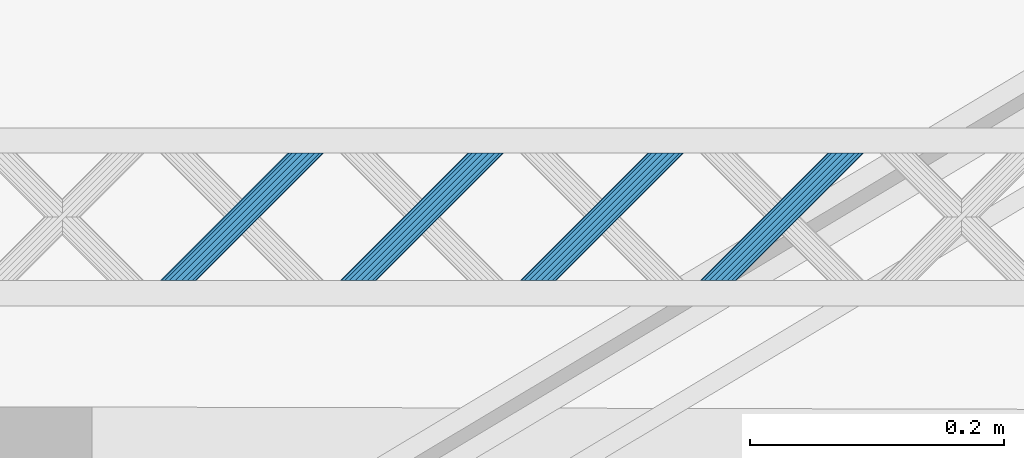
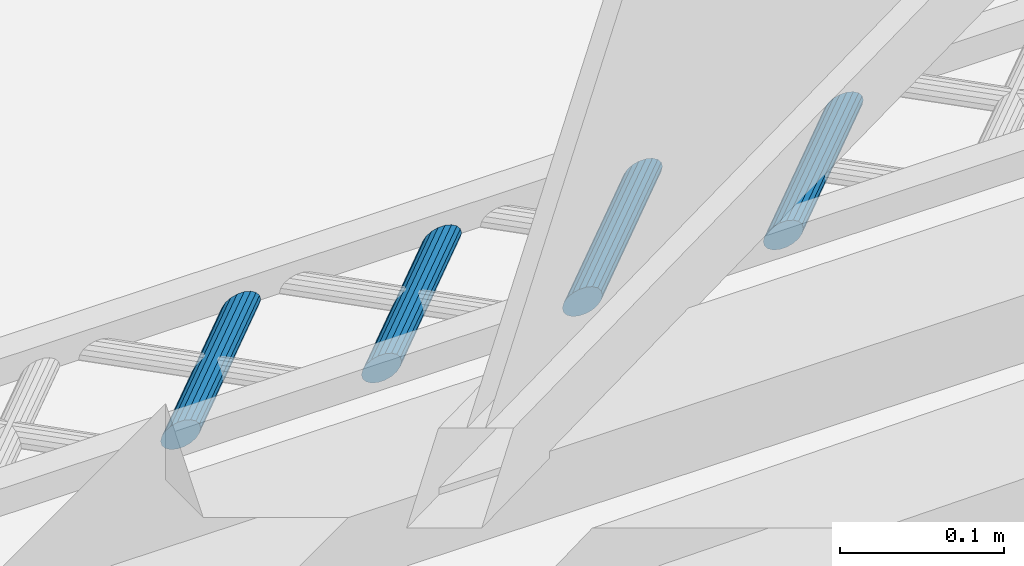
# One storey, part 62 of 133: 4 members, 1 element without a shape of its own.
"""IFC2X3 building model written with IfcOpenShell, lengths in centimetres."""

import ifcopenshell
import ifcopenshell.guid

model = None  # the IFC model being written
_history = None  # IfcOwnerHistory: only IFC2X3 demands one
_inside = {}  # id of a spatial element -> (the spatial element, [elements in it])
_under = {}  # id of a project, library or spatial element -> (it, [spatial elements below it])
_declared = {}  # id of a project -> (the project, [libraries it declares])
_typed = {}  # id of a type object -> (the type object, [elements of that type])
_made_of = {}  # id of a material, layer set ... -> (it, [elements and type objects made of it])


def new_model(schema):
    """Start an empty IFC model of exactly this schema.

    Asked for "IFC4X3", IfcOpenShell would pick the latest addendum, in which some entities
    have other attributes; the version numbers below select the first issue.
    IFC2X3 requires an IfcOwnerHistory on every rooted entity: one is made here for all.
    """
    global model, _history
    if schema == "IFC4X3":
        model = ifcopenshell.file(schema_version=(4, 3, 0, 0))
    else:
        model = ifcopenshell.file(schema=schema)
    _inside.clear()
    _under.clear()
    _declared.clear()
    _typed.clear()
    _made_of.clear()
    _history = None
    if model.schema == "IFC2X3":
        org = make("IfcOrganization", Name="unknown")
        user = make(
            "IfcPersonAndOrganization",
            ThePerson=make("IfcPerson", FamilyName="unknown"),
            TheOrganization=org,
        )
        app = make(
            "IfcApplication",
            ApplicationDeveloper=org,
            Version="unknown",
            ApplicationFullName="unknown",
            ApplicationIdentifier="unknown",
        )
        _history = make(
            "IfcOwnerHistory",
            OwningUser=user,
            OwningApplication=app,
            ChangeAction="ADDED",
            CreationDate=0,
        )
    return model


def make(cls, **values):
    """One entity of the class cls with the attributes given. An attribute that is None is left unset."""
    return model.create_entity(
        cls, **{name: value for name, value in values.items() if value is not None}
    )


def entity(cls, *values):
    """Any entity or typed value of the class cls, its attributes in the order of the schema. None: left unset."""
    e = model.create_entity(cls)
    for i, value in enumerate(values):
        if value is not None:
            e[i] = value
    return e


def rooted(cls, **values):
    """An entity with a GlobalId (a new one), such as an element, a storey or a relation."""
    return make(cls, GlobalId=ifcopenshell.guid.new(), OwnerHistory=_history, **values)


def si_unit(unit_type, name, prefix=None):
    """IfcSIUnit, for example si_unit("LENGTHUNIT", "METRE", prefix="MILLI")."""
    return make("IfcSIUnit", UnitType=unit_type, Prefix=prefix, Name=name)


def converted_unit(unit_type, name, factor, base, dimensions=None, offset=None):
    """IfcConversionBasedUnit, such as the inch: factor (a typed value) times the base unit."""
    return make(
        "IfcConversionBasedUnit"
        if offset is None
        else "IfcConversionBasedUnitWithOffset",
        ConversionOffset=offset,
        Dimensions=None
        if dimensions is None
        else entity("IfcDimensionalExponents", *dimensions),
        UnitType=unit_type,
        Name=name,
        ConversionFactor=make(
            "IfcMeasureWithUnit", ValueComponent=factor, UnitComponent=base
        ),
    )


def assignment(units):
    """IfcUnitAssignment: the units of a project."""
    return None if units is None else make("IfcUnitAssignment", Units=units)


def point(xyz):
    """IfcCartesianPoint."""
    return None if xyz is None else make("IfcCartesianPoint", Coordinates=xyz)


def direction(xyz):
    """IfcDirection."""
    return None if xyz is None else make("IfcDirection", DirectionRatios=xyz)


def frame(location, z_axis=None, x_axis=None):
    """IfcAxis2Placement3D, a coordinate frame: its origin and axes. An axis left out is left unset."""
    return make(
        "IfcAxis2Placement3D",
        Location=point(location),
        Axis=direction(z_axis),
        RefDirection=direction(x_axis),
    )


def origin():
    """The frame at (0, 0, 0) with its axes left unset."""
    return frame((0.0, 0.0, 0.0))


def origin_with_axes():
    """The frame at (0, 0, 0) with the z axis (0, 0, 1) and the x axis (1, 0, 0) written out."""
    return frame((0.0, 0.0, 0.0), z_axis=(0.0, 0.0, 1.0), x_axis=(1.0, 0.0, 0.0))


def place(relative_to, where):
    """IfcLocalPlacement: puts the frame where relative to a parent placement (None: the world)."""
    return make(
        "IfcLocalPlacement", PlacementRelTo=relative_to, RelativePlacement=where
    )


def context(
    kind, dimensions, precision=None, world=None, true_north=None, identifier=None
):
    """IfcGeometricRepresentationContext, for example the 3D "Model" context."""
    return make(
        "IfcGeometricRepresentationContext",
        ContextIdentifier=identifier,
        ContextType=kind,
        CoordinateSpaceDimension=dimensions,
        Precision=precision,
        WorldCoordinateSystem=world,
        TrueNorth=true_north,
    )


def subcontext(parent, identifier, kind, view, scale=None):
    """IfcGeometricRepresentationSubContext, for example "Body" below "Model"."""
    return make(
        "IfcGeometricRepresentationSubContext",
        ContextIdentifier=identifier,
        ContextType=kind,
        ParentContext=parent,
        TargetScale=scale,
        TargetView=view,
    )


def project(units=None, contexts=None):
    """IfcProject with its units and contexts."""
    return rooted(
        "IfcProject",
        Name="project",
        RepresentationContexts=contexts,
        UnitsInContext=assignment(units),
    )


def spatial(cls, under=None, at=None, **own):
    """A site, building, storey or space (cls), placed at a placement, below another one or the project."""
    s = rooted(cls, ObjectPlacement=at, **own)
    if under is not None:
        _under.setdefault(under.id(), (under, []))[1].append(s)
    return s


def faces_of(points, faces, orient=None, outer=None):
    """IfcFace entities. A face is a list of loops; a loop is a list of indices into points, from 0.

    orient and outer hold one flag for each loop. By default every Orientation is true, the
    first loop of a face is its IfcFaceOuterBound and the others are IfcFaceBound.
    """
    made = []
    for i, loops in enumerate(faces):
        bounds = []
        for j, loop in enumerate(loops):
            is_outer = j == 0 if outer is None else outer[i][j]
            bounds.append(
                make(
                    "IfcFaceOuterBound" if is_outer else "IfcFaceBound",
                    Bound=make("IfcPolyLoop", Polygon=[points[k] for k in loop]),
                    Orientation=True if orient is None else orient[i][j],
                )
            )
        made.append(make("IfcFace", Bounds=bounds))
    return made


def faceted_brep(points, faces, orient=None, outer=None, voids=None):
    """IfcFacetedBrep: a solid bounded by flat faces; with voids (closed shells), ...WithVoids."""
    shared = [point(p) for p in points]
    hull = make("IfcClosedShell", CfsFaces=faces_of(shared, faces, orient, outer))
    if voids is None:
        return make("IfcFacetedBrep", Outer=hull)
    return make(
        "IfcFacetedBrepWithVoids",
        Outer=hull,
        Voids=[
            make(cls, CfsFaces=faces_of(shared, fs, o, b)) for cls, fs, o, b in voids
        ],
    )


def shape(context_of_items, identifier, shape_type, items):
    """IfcShapeRepresentation: the items that make up one representation, for example the "Body"."""
    return make(
        "IfcShapeRepresentation",
        ContextOfItems=context_of_items,
        RepresentationIdentifier=identifier,
        RepresentationType=shape_type,
        Items=items,
    )


def material(Name=None, Category=None):
    """IfcMaterial."""
    return make("IfcMaterial", Name=Name, Category=Category)


def made_of(thing, what):
    """Note that an element or type object is made of a material, layer set ...; save() writes the relation."""
    if what is not None:
        _made_of.setdefault(what.id(), (what, []))[1].append(thing)
    return thing


def type_object(cls, material=None, **own):
    """A type object (cls), such as IfcWallType, which elements share."""
    return made_of(rooted(cls, **own), material)


def element(
    cls,
    number,
    at=None,
    inside=None,
    cuts=None,
    type_object=None,
    material=None,
    context=None,
    identifier="Body",
    shape_type=None,
    held_by="IfcProductDefinitionShape",
    body=None,
    shapes=None,
    **own,
):
    """One element of the class cls, such as IfcWall. Its Tag is "e" and its number.

    at: its placement. inside: the storey or other place that contains it. cuts: it is an
    opening in that element (IfcRelVoidsElement). A single representation is given by context,
    identifier, shape_type and body (its items); several are given by shapes. held_by: the class
    of the entity that holds the representations. save() writes the other relations.
    """
    e = rooted(cls, Tag="e%d" % number, ObjectPlacement=at, **own)
    if body is not None:
        shapes = [shape(context, identifier, shape_type, body)]
    if shapes is not None:
        e.Representation = make(held_by, Representations=shapes)
    if inside is not None:
        _inside.setdefault(inside.id(), (inside, []))[1].append(e)
    if cuts is not None:
        rooted(
            "IfcRelVoidsElement", RelatingBuildingElement=cuts, RelatedOpeningElement=e
        )
    if type_object is not None:
        _typed.setdefault(type_object.id(), (type_object, []))[1].append(e)
    return made_of(e, material)


def aggregate(whole, parts):
    """IfcRelAggregates: a whole, such as a stair, and the parts it consists of."""
    return rooted("IfcRelAggregates", RelatingObject=whole, RelatedObjects=parts)


def save(model, path):
    """Write the relations noted so far, then the file.

    IfcRelAggregates (storeys below a building ...), IfcRelContainedInSpatialStructure (elements
    in a storey), IfcRelDefinesByType, IfcRelAssociatesMaterial and IfcRelDeclares: one each for
    every whole, place, type object, material and project.
    """
    for whole, parts in _under.values():
        aggregate(whole, parts)
    for where, things in _inside.values():
        rooted(
            "IfcRelContainedInSpatialStructure",
            RelatedElements=things,
            RelatingStructure=where,
        )
    for kind, things in _typed.values():
        rooted("IfcRelDefinesByType", RelatedObjects=things, RelatingType=kind)
    for what, things in _made_of.values():
        rooted("IfcRelAssociatesMaterial", RelatedObjects=things, RelatingMaterial=what)
    for by, libraries in _declared.values():
        rooted("IfcRelDeclares", RelatingContext=by, RelatedDefinitions=libraries)
    model.write(path)


model = new_model("IFC2X3")

# Units and contexts
model_context = context("Model", 3, precision=0.0001, world=origin(), true_north=direction((0.225632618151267, 0.974212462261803, 0.0)))
body_context = subcontext(model_context, "Body", "Model", "MODEL_VIEW")
ifc_project = project(units=[si_unit("LENGTHUNIT", "METRE", prefix="CENTI"), si_unit("AREAUNIT", "SQUARE_METRE", prefix="CENTI"), si_unit("VOLUMEUNIT", "CUBIC_METRE", prefix="CENTI"), converted_unit("PLANEANGLEUNIT", "DEGREE", entity("IfcRatioMeasure", 0.0174532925), si_unit("PLANEANGLEUNIT", "RADIAN"), dimensions=[0, 0, 0, 0, 0, 0, 0])], contexts=[model_context])

# Site, building, storey
site_placement = place(None, origin_with_axes())
site = spatial("IfcSite", under=ifc_project, at=site_placement, Name="Default Site", CompositionType="ELEMENT")
building_placement = place(site_placement, origin_with_axes())
building = spatial("IfcBuilding", under=site, at=building_placement, Name="Default Building", CompositionType="ELEMENT")
storey_placement = place(building_placement, frame((0.0, 0.0, -291.400371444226), z_axis=(0.0, 0.0, 1.0), x_axis=(1.0, 0.0, 0.0)))
storey = spatial("IfcBuildingStorey", under=building, at=storey_placement, Name="Rez-de-Jardin", CompositionType="ELEMENT", Elevation=-291.400371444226)

# Assembly, members
building_element_proxy_type = type_object("IfcBuildingElementProxyType", Name="Type Object", PredefinedType="NOTDEFINED")
assembly_placement = place(storey_placement, frame((-322.682568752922, 627.125798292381, 0.0), z_axis=(0.0, 1.0, -2.38697950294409e-15), x_axis=(1.0, 0.0, 0.0)))
assembly = element("IfcElementAssembly", 1, at=assembly_placement, inside=storey, type_object=building_element_proxy_type, Name="Panneau 92029", ObjectType="Precast panel", PredefinedType="USERDEFINED")
ifc_material = material(Name="Aluminium satiné")
member_1_placement = place(assembly_placement, frame((80.8314502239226, 0.342020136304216, 11.9999997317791), z_axis=(1.16937776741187e-15, -1.43218081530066e-15, 1.0), x_axis=(0.632457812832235, -0.774594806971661, -1.84894192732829e-15)))
member_1 = element("IfcMember", 2, at=member_1_placement, material=ifc_material, Name="4294966826", context=body_context, shape_type="Brep", body=[
    faceted_brep([(7.7715611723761e-14, -5.55111512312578e-14, 1.11022302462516e-14), (-0.388290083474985, -4.44089209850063e-14, 1.03843044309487e-14), (-0.799166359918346, -0.150246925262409, 9.62461805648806e-15), (-1.18307325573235, -0.43262135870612, 8.91479650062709e-15), (-1.49370379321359, -0.813062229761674, 8.34045867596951e-15), (-1.69359427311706, -1.24568634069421, 7.97087278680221e-15), (-1.75863665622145, -1.67831484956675, 7.85061319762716e-15), (-1.68097711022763, -2.05875572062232, 7.99420118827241e-15), (-1.46999133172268, -2.34113289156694, 8.38430164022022e-15), (-1.15112306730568, -2.49138233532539, 8.97387054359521e-15), (-0.762836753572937, -2.49138695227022, 9.69178938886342e-15), (-0.351956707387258, -2.34113541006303, 1.04514827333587e-14), (0.0319501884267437, -2.05876097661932, 1.11613042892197e-14), (0.342580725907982, -1.67832010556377, 1.17356421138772e-14), (0.542471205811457, -1.24569599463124, 1.21052280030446e-14), (0.607509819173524, -0.813072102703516, 1.2225480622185e-14), (0.529854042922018, -0.432626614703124, 1.20818996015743e-14), (0.318868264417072, -0.150249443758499, 1.16917991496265e-14), (-6.0057113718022, -7.89619936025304, -9.99999977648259), (-5.79472182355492, -8.17857191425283, -9.99999977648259), (-5.71706604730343, -8.55901740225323, -9.99999977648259), (-5.78210466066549, -8.99164129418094, -9.99999977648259), (-5.98199514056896, -9.42426540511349, -9.99999977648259), (-6.29262944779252, -9.80471089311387, -9.99999977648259), (-6.67653634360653, -10.0870853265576, -9.99999977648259), (-7.08741262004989, -10.2373322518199, -9.99999977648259), (-7.47570270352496, -10.2373322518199, -9.99999977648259), (-7.79457096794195, -10.0870828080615, -9.99999977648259), (-8.00555674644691, -9.80470563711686, -9.99999977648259), (-8.0832125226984, -9.42426014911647, -9.99999977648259), (-8.01817390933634, -8.99163625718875, -9.99999977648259), (-7.81828342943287, -8.55901214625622, -9.99999977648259), (-7.5076491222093, -8.17856665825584, -9.99999977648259), (-7.1237422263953, -7.89619222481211, -9.99999977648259), (-6.71286594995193, -7.74594529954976, -9.99999977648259), (-6.32457586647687, -7.74594529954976, -9.99999977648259), (0.318868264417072, -0.150249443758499, 1.11022302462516e-14), (0.529854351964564, -0.432626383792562, -3.74318484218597e-07), (-5.79472285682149, -8.17857268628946, -9.9999985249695), (-6.005710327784, -7.89619858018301, -10.0000010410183), (0.529854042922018, -0.432626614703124, 1.11022302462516e-14), (0.60751052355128, -0.813071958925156, -5.56859173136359e-07), (-5.71706693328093, -8.55901758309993, -9.99999907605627), (-5.79472341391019, -8.17857223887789, -9.99999851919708), (0.607509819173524, -0.813072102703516, 1.2490009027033e-14), (0.542470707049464, -1.24569591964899, 2.57365076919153e-07), (-5.78210650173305, -8.99164101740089, -9.99999882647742), (-5.71706738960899, -8.55901720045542, -9.99999908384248), (0.542471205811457, -1.24569599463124, 1.2490009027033e-14), (0.342580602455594, -1.67832004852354, 3.38953760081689e-08), (-5.98199597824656, -9.424265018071, -9.99999954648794), (-5.78210537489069, -8.99164096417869, -9.99999958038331), (0.342580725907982, -1.67832010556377, 1.11022302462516e-14), (0.0319501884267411, -2.05876097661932, 1.11022302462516e-14), (-6.29262944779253, -9.80471089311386, -9.99999977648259), (-5.98199514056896, -9.42426540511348, -9.99999977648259), (0.0319501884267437, -2.05876097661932, 1.11022302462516e-14), (-0.35195662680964, -2.34113551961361, 3.38953773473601e-08), (-6.67653662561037, -10.0870849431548, -9.99999989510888), (-6.29262981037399, -9.80471040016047, -9.99999992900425), (-0.351956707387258, -2.34113541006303, 9.71445146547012e-15), (-0.76283740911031, -2.49138515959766, -9.73995118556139e-07), (-7.08741280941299, -10.2373317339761, -10.0000000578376), (-6.67653670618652, -10.0870843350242, -10.0000003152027), (-0.762836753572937, -2.49138695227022, 9.71445146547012e-15), (-1.1511230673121, -2.49138450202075, 1.67831504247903e-06), (-7.47570270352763, -10.2373331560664, -9.99999907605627), (-7.0874126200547, -10.2373338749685, -9.99999851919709), (-1.15112306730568, -2.49138233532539, 8.32667268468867e-15), (-1.46999116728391, -2.34113254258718, -3.74318488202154e-07), (-7.79457024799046, -10.0870812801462, -10.0000014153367), (-7.47570214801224, -10.2373310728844, -10.0000010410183), (-1.46999133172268, -2.34113289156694, 8.32667268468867e-15), (-1.68097741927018, -2.05875595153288, 3.74318499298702e-07), (-8.00555601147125, -9.80470508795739, -10.0000006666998), (-7.79456992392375, -10.0870820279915, -10.0000010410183), (-1.68097711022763, -2.05875572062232, 8.32667268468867e-15), (-1.75863453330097, -1.6783144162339, -1.67831501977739e-06), (-8.08321199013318, -9.42426004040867, -10.0000001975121), (-8.00555550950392, -9.8047053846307, -10.0000007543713), (-1.75863665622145, -1.67831484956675, 6.93889390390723e-15), (-1.69359616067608, -1.24568605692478, 9.73995131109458e-07), (-8.01817475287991, -8.99163613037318, -9.99999934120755), (-8.08321386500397, -9.42425994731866, -9.99999908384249), (-1.69359427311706, -1.24568634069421, 6.93889390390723e-15), (-1.4937036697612, -0.813062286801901, -3.38953577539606e-08), (-7.81828275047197, -8.55901245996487, -9.99999996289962), (-8.01817335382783, -8.99163651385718, -9.99999992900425), (-1.49370379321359, -0.813062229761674, 8.32667268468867e-15), (-1.18307325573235, -0.432621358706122, 8.32667268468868e-15), (-7.50764912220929, -8.17856665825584, -9.99999977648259), (-7.81828342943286, -8.55901214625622, -9.99999977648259), (-1.18307325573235, -0.43262135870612, 8.32667268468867e-15), (-0.799166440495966, -0.150246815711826, -3.38953587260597e-08), (-7.12374184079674, -7.89619274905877, -9.99999961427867), (-7.50764865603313, -8.17856729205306, -9.99999958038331), (-0.799166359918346, -0.150246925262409, 9.71445146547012e-15), (-0.388290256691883, 4.73689474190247e-07, -2.57365050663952e-07), (-6.71286565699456, -7.74594610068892, -9.99999934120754), (-7.12374176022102, -7.8961934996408, -9.99999908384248), (-0.388290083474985, -4.44089209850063e-14, 9.71445146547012e-15), (-2.05190970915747e-12, -7.18902159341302e-07, 5.56859194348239e-07), (-6.3245758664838, -7.74594764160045, -9.9999979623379), (-6.71286594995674, -7.74594692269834, -9.99999851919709), (0.318868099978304, -0.150249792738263, 3.74318507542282e-07), (-6.00571098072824, -7.89619853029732, -10.0000006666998), (-6.32457658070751, -7.74594681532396, -9.99999815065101)], [[[0, 1, 2, 3, 4, 5, 6, 7, 8, 9, 10, 11, 12, 13, 14, 15, 16, 17]], [[18, 19, 20, 21, 22, 23, 24, 25, 26, 27, 28, 29, 30, 31, 32, 33, 34, 35]], [[36, 37, 38, 39]], [[40, 41, 42, 43]], [[44, 45, 46, 47]], [[48, 49, 50, 51]], [[52, 53, 54, 55]], [[56, 57, 58, 59]], [[60, 61, 62, 63]], [[64, 65, 66, 67]], [[68, 69, 70, 71]], [[72, 73, 74, 75]], [[76, 77, 78, 79]], [[80, 81, 82, 83]], [[84, 85, 86, 87]], [[88, 89, 90, 91]], [[92, 93, 94, 95]], [[96, 97, 98, 99]], [[100, 101, 102, 103]], [[0, 104, 105, 106]]]),
])
member_2_placement = place(assembly_placement, frame((94.973587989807, 0.342020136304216, 11.9999997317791), z_axis=(1.16937776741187e-15, -1.43218081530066e-15, 1.0), x_axis=(0.632457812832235, -0.774594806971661, -1.84894192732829e-15)))
member_2 = element("IfcMember", 3, at=member_2_placement, material=ifc_material, Name="4294966825", context=body_context, shape_type="Brep", body=[
    faceted_brep([(5.55111512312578e-14, -4.44089209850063e-14, 2.77555756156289e-14), (-0.388290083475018, -3.33066907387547e-14, 2.7037649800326e-14), (-0.79916635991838, -0.150246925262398, 2.62779634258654e-14), (-1.18307325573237, -0.432621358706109, 2.55681418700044e-14), (-1.49370756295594, -0.813066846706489, 2.49937970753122e-14), (-1.69359804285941, -1.24569095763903, 2.46242111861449e-14), (-1.75863665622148, -1.67831484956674, 2.45039585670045e-14), (-1.68098087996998, -2.05876033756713, 2.46475395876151e-14), (-1.46999510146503, -2.34113750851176, 2.50376400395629e-14), (-1.15112683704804, -2.4913869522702, 2.56272089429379e-14), (-0.762836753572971, -2.49138695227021, 2.63451347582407e-14), (-0.351960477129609, -2.34114002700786, 2.71048211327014e-14), (0.0319464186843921, -2.05876559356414, 2.78146426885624e-14), (0.342580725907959, -1.67832010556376, 2.83889874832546e-14), (0.542471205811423, -1.24569599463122, 2.87585733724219e-14), (0.607509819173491, -0.813072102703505, 2.88788259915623e-14), (0.529854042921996, -0.432626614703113, 2.87352449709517e-14), (0.318868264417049, -0.150249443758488, 2.83451445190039e-14), (-6.00571137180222, -7.89619936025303, -9.99999977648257), (-5.79472559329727, -8.17857653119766, -9.99999977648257), (-5.71706981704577, -8.55902201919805, -9.99999977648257), (-5.78210843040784, -8.99164591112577, -9.99999977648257), (-5.98199891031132, -9.4242700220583, -9.99999977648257), (-6.29262944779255, -9.80471089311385, -9.99999977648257), (-6.67653634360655, -10.0870853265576, -9.99999977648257), (-7.08741638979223, -10.2373368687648, -9.99999977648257), (-7.47570270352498, -10.2373322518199, -9.99999977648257), (-7.79457096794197, -10.0870828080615, -9.99999977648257), (-8.00555674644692, -9.80470563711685, -9.99999977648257), (-8.08321629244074, -9.42426476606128, -9.99999977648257), (-8.01817390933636, -8.99163625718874, -9.99999977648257), (-7.81828342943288, -8.55901214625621, -9.99999977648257), (-7.50765289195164, -8.17857127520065, -9.99999977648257), (-7.12374599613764, -7.89619684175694, -9.99999977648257), (-6.71286971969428, -7.74594991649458, -9.99999977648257), (-6.32457963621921, -7.74594991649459, -9.99999977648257), (0.318868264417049, -0.150249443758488, 2.77555756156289e-14), (0.529854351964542, -0.432626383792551, -3.74318467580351e-07), (-5.79472424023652, -8.17857552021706, -10.0000014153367), (-6.00571032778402, -7.896198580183, -10.0000010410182), (0.529854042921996, -0.432626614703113, 2.77555756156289e-14), (0.607510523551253, -0.813071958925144, -5.56859161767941e-07), (-5.71706787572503, -8.55902162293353, -10.0000013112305), (-5.79472435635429, -8.1785762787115, -10.0000007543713), (0.607509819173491, -0.813072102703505, 2.91433543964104e-14), (0.542470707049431, -1.24569591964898, 2.57365093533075e-07), (-5.78210788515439, -8.99164599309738, -10.0000000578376), (-5.71706877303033, -8.5590221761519, -10.0000003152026), (0.542471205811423, -1.24569599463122, 2.91433543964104e-14), (0.342580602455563, -1.67832004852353, 3.38953950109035e-08), (-5.98199847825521, -9.4242702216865, -9.99999989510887), (-5.78210787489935, -8.99164616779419, -9.99999992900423), (0.342580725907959, -1.67832010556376, 2.77555756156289e-14), (0.0319464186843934, -2.05876559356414, 2.77555756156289e-14), (-6.29262944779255, -9.80471089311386, -9.99999977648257), (-5.98199891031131, -9.42427002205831, -9.99999977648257), (0.0319464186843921, -2.05876559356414, 2.77555756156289e-14), (-0.351960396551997, -2.34114013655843, 3.38953919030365e-08), (-6.67653579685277, -10.0870860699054, -9.99999954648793), (-6.29262898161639, -9.80471152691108, -9.99999958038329), (-0.351960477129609, -2.34114002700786, 2.63677968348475e-14), (-0.762836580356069, -2.49138742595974, 2.57365090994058e-07), (-7.08741657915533, -10.2373363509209, -10.0000000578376), (-6.67653587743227, -10.0870866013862, -9.99999908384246), (-0.762836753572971, -2.49138695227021, 2.63677968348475e-14), (-1.15112683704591, -2.4913862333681, -5.5685915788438e-07), (-7.47570270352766, -10.2373331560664, -9.99999907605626), (-7.08741638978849, -10.2373356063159, -10.0000007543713), (-1.15112683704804, -2.4913869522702, 2.4980018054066e-14), (-1.46999493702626, -2.341137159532, -3.7431846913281e-07), (-7.79457151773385, -10.0870839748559, -9.9999985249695), (-7.47570341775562, -10.2373337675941, -9.999998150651), (-1.46999510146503, -2.34113750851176, 2.4980018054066e-14), (-1.68098118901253, -2.05876056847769, 3.74318515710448e-07), (-8.00555839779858, -9.8047068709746, -9.99999777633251), (-7.79457231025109, -10.0870838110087, -9.999998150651), (-1.68098087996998, -2.05876033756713, 2.4980018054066e-14), (-1.75863736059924, -1.6783149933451, 5.56859214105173e-07), (-8.08321575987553, -9.42426465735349, -10.0000001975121), (-8.00555833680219, -9.80470596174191, -9.99999851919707), (-1.75863665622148, -1.67831484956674, 2.35922392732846e-14), (-1.69359754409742, -1.24569103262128, -2.57365040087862e-07), (-8.01817475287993, -8.99163613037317, -9.99999934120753), (-8.0832152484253, -9.42426492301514, -10.0000003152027), (-1.69359804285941, -1.24569095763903, 2.35922392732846e-14), (-1.49370743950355, -0.813066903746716, -3.38953409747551e-08), (-7.8182840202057, -8.55901187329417, -9.99999961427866), (-8.01817462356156, -8.99163592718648, -9.9999995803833), (-1.49370756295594, -0.813066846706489, 2.4980018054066e-14), (-1.18307325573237, -0.432621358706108, 2.4980018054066e-14), (-7.50765289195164, -8.17857127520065, -9.99999977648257), (-1.18307325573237, -0.432621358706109, 2.4980018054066e-14), (-0.799166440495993, -0.150246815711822, -3.38953397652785e-08), (-7.12374643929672, -7.89619623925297, -9.9999999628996), (-7.5076532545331, -8.17857078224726, -9.99999992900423), (-0.79916635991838, -0.150246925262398, 2.63677968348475e-14), (-0.388290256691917, 4.73689485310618e-07, -2.57365034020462e-07), (-6.71287025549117, -7.74594845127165, -10.0000005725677), (-7.12374635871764, -7.89619585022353, -10.0000003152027), (-0.388290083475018, -3.33066907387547e-14, 2.63677968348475e-14), (-2.07411416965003e-12, -7.18902148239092e-07, 5.568592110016e-07), (-6.3245796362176, -7.7459493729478, -10.0000001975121), (-6.71286971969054, -7.74594865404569, -10.0000007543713), (0.318868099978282, -0.150249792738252, 3.74318524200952e-07), (-6.00571098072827, -7.89619853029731, -10.0000006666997), (-6.32457908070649, -7.74594873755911, -10.0000010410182)], [[[0, 1, 2, 3, 4, 5, 6, 7, 8, 9, 10, 11, 12, 13, 14, 15, 16, 17]], [[18, 19, 20, 21, 22, 23, 24, 25, 26, 27, 28, 29, 30, 31, 32, 33, 34, 35]], [[36, 37, 38, 39]], [[40, 41, 42, 43]], [[44, 45, 46, 47]], [[48, 49, 50, 51]], [[52, 53, 54, 55]], [[56, 57, 58, 59]], [[60, 61, 62, 63]], [[64, 65, 66, 67]], [[68, 69, 70, 71]], [[72, 73, 74, 75]], [[76, 77, 78, 79]], [[80, 81, 82, 83]], [[84, 85, 86, 87]], [[88, 89, 90, 31]], [[91, 92, 93, 94]], [[95, 96, 97, 98]], [[99, 100, 101, 102]], [[0, 103, 104, 105]]]),
])
member_3_placement = place(assembly_placement, frame((109.115719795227, 0.342020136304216, 11.9999997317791), z_axis=(1.16937209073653e-15, -1.43220862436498e-15, 1.0), x_axis=(0.632448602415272, -0.774602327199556, -1.84895987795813e-15)))
member_3 = element("IfcMember", 4, at=member_3_placement, material=ifc_material, Name="4294966824", context=body_context, shape_type="Brep", body=[
    faceted_brep([(3.33066907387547e-14, 2.22044604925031e-14, -1.33226762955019e-13), (-0.388286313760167, 2.22044604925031e-14, -1.33944688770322e-13), (-0.799164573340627, -0.150256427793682, -1.34704386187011e-13), (-1.18306811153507, -0.432635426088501, -1.35414208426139e-13), (-1.49369789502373, -0.813084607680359, -1.35988550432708e-13), (-1.69358323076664, -1.24571109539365, -1.36358130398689e-13), (-1.75861293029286, -1.6783311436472, -1.36478367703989e-13), (-1.68095640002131, -2.05878032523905, -1.36334783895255e-13), (-1.46996349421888, -2.34115037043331, -1.35944666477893e-13), (-1.15109721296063, -2.49140063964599, -1.35355095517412e-13), (-0.762803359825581, -2.49139140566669, -1.34637155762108e-13), (-0.351932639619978, -2.34114421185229, -1.3387747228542e-13), (0.0319708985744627, -2.05876521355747, -1.33167650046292e-13), (0.342600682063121, -1.67831603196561, -1.32593308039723e-13), (0.542486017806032, -1.24568954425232, -1.32223728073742e-13), (0.60752325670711, -0.81306026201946, -1.32103476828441e-13), (0.529859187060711, -0.432620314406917, -1.32247074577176e-13), (0.318873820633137, -0.150241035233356, -1.32637178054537e-13), (-6.00561371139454, -7.89626615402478, -9.99999977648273), (-5.79462457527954, -8.17864081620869, -9.99999977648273), (-5.71696427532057, -8.55908538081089, -9.99999977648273), (-5.78199774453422, -8.99171004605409, -9.99999977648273), (-5.98188308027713, -9.42433653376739, -9.99999977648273), (-6.29251286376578, -9.80478571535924, -9.99999977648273), (-6.67641640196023, -10.0871647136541, -9.99999977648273), (-7.08729089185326, -10.2374165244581, -9.99999977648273), (-7.47558097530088, -10.2374211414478, -9.99999977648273), (-7.79445102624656, -10.0871754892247, -9.99999977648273), (-8.00544016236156, -9.80480082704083, -9.99999977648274), (-8.08310046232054, -9.42435626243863, -9.99999977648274), (-8.01806699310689, -8.99173159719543, -9.99999977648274), (-7.81818165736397, -8.55910510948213, -9.99999977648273), (-7.50755187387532, -8.17865592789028, -9.99999977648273), (-7.12364833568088, -7.89627692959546, -9.99999977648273), (-6.71277384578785, -7.74602511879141, -9.99999977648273), (-6.32448376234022, -7.74602050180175, -9.99999977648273), (0.318873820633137, -0.150241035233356, -1.33226762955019e-13), (0.529861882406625, -0.432618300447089, -3.26468585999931e-06), (-5.79462322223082, -8.17863980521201, -10.0000014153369), (-6.00561266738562, -7.89626537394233, -10.0000010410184), (0.529859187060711, -0.432620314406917, -1.33226762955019e-13), (0.607521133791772, -0.813060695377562, 1.67831490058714e-06), (-5.71696516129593, -8.55908556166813, -9.99999907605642), (-5.79462616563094, -8.17864114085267, -9.99999851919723), (0.60752325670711, -0.81306026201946, -1.31838984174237e-13), (0.542487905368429, -1.2456898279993, -9.739952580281e-07), (-5.78199719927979, -8.99171012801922, -10.0000000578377), (-5.71696323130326, -8.55908553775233, -10.0000003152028), (0.542486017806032, -1.24568954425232, -1.33226762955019e-13), (0.342600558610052, -1.67831597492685, 3.38952326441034e-08), (-5.98188391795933, -9.42433614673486, -9.99999954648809), (-5.78199845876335, -8.99170971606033, -9.99999958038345), (0.342600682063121, -1.67831603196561, -1.33226762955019e-13), (0.0319708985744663, -2.05876521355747, -1.33226762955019e-13), (0.0319708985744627, -2.05876521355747, -1.33226762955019e-13), (-0.351932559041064, -2.3411443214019, 3.38952308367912e-08), (-6.67641585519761, -10.0871654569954, -9.99999954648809), (-6.29251239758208, -9.80478634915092, -9.99999958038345), (-0.351932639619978, -2.34114421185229, -1.346145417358e-13), (-0.762802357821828, -2.49139414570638, 1.48872511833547e-06), (-7.08729025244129, -10.2374182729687, -9.99999882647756), (-6.67641593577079, -10.0871659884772, -9.99999908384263), (-0.762803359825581, -2.49139140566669, -1.346145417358e-13), (-1.15109721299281, -2.49139703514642, -2.79203354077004e-06), (-7.47558097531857, -10.2374191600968, -10.0000013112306), (-7.08729089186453, -10.2374152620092, -10.0000007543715), (-1.15109721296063, -2.49140063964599, -1.36002320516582e-13), (-1.46996459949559, -2.34115271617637, 2.51604860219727e-06), (-7.79445157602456, -10.0871766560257, -9.99999852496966), (-7.4755816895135, -10.2374226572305, -9.99999815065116), (-1.46996349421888, -2.34115037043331, -1.36002320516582e-13), (-1.68095432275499, -2.05877877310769, -2.51604887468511e-06), (-8.00543942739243, -9.80480027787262, -10.0000006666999), (-7.79444998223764, -10.0871747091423, -10.0000010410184), (-1.68095640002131, -2.05878032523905, -1.36002320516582e-13), (-1.75861646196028, -1.67833186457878, 2.79203326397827e-06), (-8.08310275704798, -9.42435673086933, -9.99999796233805), (-8.00544175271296, -9.8048011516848, -9.99999851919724), (-1.75861293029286, -1.6783311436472, -1.37390099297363e-13), (-1.69358034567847, -1.24571152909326, -1.48872539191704e-06), (-8.01806545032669, -8.99173182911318, -10.0000005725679), (-8.08309941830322, -9.42435641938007, -10.0000003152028), (-1.69358323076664, -1.24571109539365, -1.37390099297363e-13), (-1.49369777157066, -0.813084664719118, -3.38955019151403e-08), (-7.81818224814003, -8.55910483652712, -9.99999961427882), (-8.01806770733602, -8.99173126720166, -9.99999958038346), (-1.49369789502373, -0.813084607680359, -1.36002320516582e-13), (-1.18306811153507, -0.432635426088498, -1.36002320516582e-13), (-7.50755187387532, -8.17865592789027, -9.99999977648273), (-1.18306811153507, -0.432635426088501, -1.36002320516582e-13), (-0.799164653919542, -0.150256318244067, -3.38955013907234e-08), (-7.12364795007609, -7.89627745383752, -9.99999961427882), (-7.50755140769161, -8.17865656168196, -9.99999958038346), (-0.799164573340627, -0.150256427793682, -1.36002320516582e-13), (-0.388285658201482, -1.79266474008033e-06, 9.7399498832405e-07), (-6.71277355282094, -7.74602591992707, -9.99999934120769), (-7.12364786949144, -7.89627820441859, -9.99999908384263), (-0.388286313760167, 2.22044604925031e-14, -1.346145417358e-13), (-1.93114650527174e-11, 2.16669537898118e-06, -1.67831516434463e-06), (-6.32448376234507, -7.74601995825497, -10.0000001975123), (-6.71277384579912, -7.74602385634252, -10.0000007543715), (0.318872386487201, -0.150244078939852, 3.26468559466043e-06), (-6.00561459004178, -7.89626801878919, -9.99999777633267), (-6.32448447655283, -7.74602201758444, -9.99999815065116)], [[[0, 1, 2, 3, 4, 5, 6, 7, 8, 9, 10, 11, 12, 13, 14, 15, 16, 17]], [[18, 19, 20, 21, 22, 23, 24, 25, 26, 27, 28, 29, 30, 31, 32, 33, 34, 35]], [[36, 37, 38, 39]], [[40, 41, 42, 43]], [[44, 45, 46, 47]], [[48, 49, 50, 51]], [[52, 53, 23, 22]], [[54, 55, 56, 57]], [[58, 59, 60, 61]], [[62, 63, 64, 65]], [[66, 67, 68, 69]], [[70, 71, 72, 73]], [[74, 75, 76, 77]], [[78, 79, 80, 81]], [[82, 83, 84, 85]], [[86, 87, 88, 31]], [[89, 90, 91, 92]], [[93, 94, 95, 96]], [[97, 98, 99, 100]], [[0, 101, 102, 103]]]),
])
member_4_placement = place(assembly_placement, frame((123.257863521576, 0.342020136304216, 11.9999997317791), z_axis=(1.16938344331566e-15, -1.43215300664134e-15, 1.0), x_axis=(0.632467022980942, -0.774587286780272, -1.84892397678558e-15)))
member_4 = element("IfcMember", 5, at=member_4_placement, material=ifc_material, Name="4294966823", context=body_context, shape_type="Brep", body=[
    faceted_brep([(8.88178419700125e-14, -1.11022302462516e-14, -1.2490009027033e-13), (-0.388293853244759, -1.11022302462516e-14, -1.25618016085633e-13), (-0.799168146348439, -0.150237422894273, -1.26377691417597e-13), (-1.18307839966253, -0.432607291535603, -1.27087512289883e-13), (-1.49371723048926, -0.813049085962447, -1.2766185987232e-13), (-1.69361285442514, -1.2456708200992, -1.28031451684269e-13), (-1.75866038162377, -1.67829855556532, -1.28151719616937e-13), (-1.68100535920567, -2.05874034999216, -1.28008141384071e-13), (-1.47002670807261, -2.34112464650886, -1.27618057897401e-13), (-1.15115646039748, -2.49137326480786, -1.27028491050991e-13), (-0.762870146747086, -2.49138249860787, -1.26310579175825e-13), (-0.351988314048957, -2.34113584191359, -1.25550889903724e-13), (0.0319219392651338, -2.05876597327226, -1.24841069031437e-13), (0.34256077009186, -1.67832417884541, -1.24266721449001e-13), (0.542456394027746, -1.24570244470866, -1.23897129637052e-13), (0.607496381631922, -0.81308394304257, -1.23776875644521e-13), (0.529848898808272, -0.432632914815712, -1.2392043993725e-13), (0.318862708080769, -0.150257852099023, -1.24310537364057e-13), (-6.00580902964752, -7.89613256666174, -9.99999977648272), (-5.79482283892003, -8.17850762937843, -9.99999977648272), (-5.71717535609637, -8.5589586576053, -9.99999977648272), (-5.78221534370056, -8.99157715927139, -9.99999977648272), (-5.98211096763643, -9.42419889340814, -9.99999977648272), (-6.29274979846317, -9.80464068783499, -9.99999977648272), (-6.67666005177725, -10.0870105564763, -9.99999977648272), (-7.08754188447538, -10.2372572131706, -9.99999977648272), (-7.47582819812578, -10.2372479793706, -9.99999977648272), (-7.79469090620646, -10.0869901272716, -9.99999977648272), (-8.00567709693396, -9.80461506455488, -9.99999977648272), (-8.08333211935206, -9.42417327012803, -9.99999977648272), (-8.01828459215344, -8.99154553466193, -9.99999977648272), (-7.81838896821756, -8.55892380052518, -9.99999977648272), (-7.50775013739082, -8.17848200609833, -9.99999977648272), (-7.12383988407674, -7.896112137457, -9.99999977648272), (-6.71296559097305, -7.74587471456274, -9.99999977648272), (-6.32467173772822, -7.74587471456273, -9.99999977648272), (0.318862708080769, -0.150257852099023, -1.2490009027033e-13), (0.529846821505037, -0.432634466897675, 2.5160486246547e-06), (-5.79482387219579, -8.17850840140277, -9.99999852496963), (-6.00580798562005, -7.89613178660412, -10.0000010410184), (0.529848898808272, -0.432632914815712, -1.2490009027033e-13), (0.607499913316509, -0.813083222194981, -2.79203353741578e-06), (-5.7171705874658, -8.55895768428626, -10.0000035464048), (-5.79482160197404, -8.17850737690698, -10.0000007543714), (0.607496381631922, -0.81308394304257, -1.23512311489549e-13), (0.542453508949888, -1.24570201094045, 1.48872513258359e-06), (-5.78221718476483, -8.99157688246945, -9.99999882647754), (-5.7171743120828, -8.55895881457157, -10.0000003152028), (0.542456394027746, -1.24570244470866, -1.2490009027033e-13), (0.342560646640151, -1.67832412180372, 3.38952400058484e-08), (-5.98211053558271, -9.42419909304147, -9.99999989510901), (-5.78221478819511, -8.99157741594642, -9.99999992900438), (0.34256077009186, -1.67832417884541, -1.2490009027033e-13), (0.0319219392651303, -2.05876597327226, -1.2490009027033e-13), (-6.29274979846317, -9.80464068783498, -9.99999977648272), (-5.98211096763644, -9.42419889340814, -9.99999977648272), (0.0319219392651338, -2.05876597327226, -1.2490009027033e-13), (-0.351988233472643, -2.34113595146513, 3.3895240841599e-08), (-6.67666033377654, -10.0870101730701, -9.99999989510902), (-6.29275016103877, -9.80464019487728, -9.99999992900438), (-0.351988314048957, -2.34113584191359, -1.26287869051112e-13), (-0.762870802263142, -2.49138070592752, -9.739952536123e-07), (-7.08754290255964, -10.2372544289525, -10.0000012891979), (-6.67666041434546, -10.0870095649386, -10.0000003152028), (-0.762870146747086, -2.49138249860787, -1.26287869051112e-13), (-1.15115646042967, -2.49137543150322, 1.67831490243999e-06), (-7.47582819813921, -10.237248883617, -9.99999907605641), (-7.08754188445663, -10.2372559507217, -10.0000007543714), (-1.15115646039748, -2.49137326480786, -1.27675647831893e-13), (-1.4700252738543, -2.34112160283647, -3.2646858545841e-06), (-7.79469145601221, -10.0869912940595, -9.99999852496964), (-7.47582764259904, -10.2372468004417, -10.0000010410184), (-1.47002670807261, -2.34112464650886, -1.27675647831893e-13), (-1.68100805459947, -2.05874236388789, 3.2646855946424e-06), (-8.00567874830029, -9.80461629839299, -9.99999777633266), (-7.79469463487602, -10.0869929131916, -9.99999526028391), (-1.68100535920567, -2.05874034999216, -1.27675647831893e-13), (-1.75865825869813, -1.6782981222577, -1.67831515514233e-06), (-8.08332875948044, -9.42417258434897, -10.0000024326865), (-8.00567585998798, -9.80461481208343, -10.0000007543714), (-1.75866038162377, -1.67829855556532, -1.29063426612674e-13), (-1.69361474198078, -1.24567053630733, 9.73994992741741e-07), (-8.01828543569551, -8.99154540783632, -9.99999934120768), (-8.08333107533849, -9.4241734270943, -10.0000003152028), (-1.69361285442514, -1.2456708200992, -1.29063426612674e-13), (-1.49371710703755, -0.81304914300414, -3.38954926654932e-08), (-7.8183882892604, -8.5589241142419, -9.99999996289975), (-8.018284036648, -8.99154579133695, -9.99999992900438), (-1.49371723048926, -0.813049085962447, -1.27675647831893e-13), (-1.18307839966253, -0.432607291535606, -1.27675647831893e-13), (-1.18307839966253, -0.432607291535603, -1.27675647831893e-13), (-0.799168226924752, -0.150237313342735, -3.38954947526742e-08), (-7.12384032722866, -7.89611153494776, -9.99999996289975), (-7.50775049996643, -8.17848151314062, -9.99999992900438), (-0.799168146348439, -0.150237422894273, -1.27675647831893e-13), (-0.388294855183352, 2.74006351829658e-06, -1.48872538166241e-06), (-6.71296695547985, -7.74587098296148, -10.0000018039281), (-7.12384024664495, -7.89611114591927, -10.0000003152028), (-0.388293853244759, -1.11022302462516e-14, -1.26287869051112e-13), (-5.34476149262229e-11, -3.60449958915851e-06, 2.79203328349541e-06), (-6.324671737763, -7.74587705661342, -9.99999796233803), (-6.7129655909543, -7.74587345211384, -10.0000007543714), (0.318863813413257, -0.150255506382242, -2.51604886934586e-06), (-6.0058073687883, -7.89612904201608, -10.0000035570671), (-6.32467118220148, -7.74587353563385, -10.0000010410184)], [[[0, 1, 2, 3, 4, 5, 6, 7, 8, 9, 10, 11, 12, 13, 14, 15, 16, 17]], [[18, 19, 20, 21, 22, 23, 24, 25, 26, 27, 28, 29, 30, 31, 32, 33, 34, 35]], [[36, 37, 38, 39]], [[40, 41, 42, 43]], [[44, 45, 46, 47]], [[48, 49, 50, 51]], [[52, 53, 54, 55]], [[56, 57, 58, 59]], [[60, 61, 62, 63]], [[64, 65, 66, 67]], [[68, 69, 70, 71]], [[72, 73, 74, 75]], [[76, 77, 78, 79]], [[80, 81, 82, 83]], [[84, 85, 86, 87]], [[88, 89, 32, 31]], [[90, 91, 92, 93]], [[94, 95, 96, 97]], [[98, 99, 100, 101]], [[0, 102, 103, 104]]]),
])
aggregate(assembly, [member_1, member_2, member_3, member_4])

save(model, "model.ifc")
